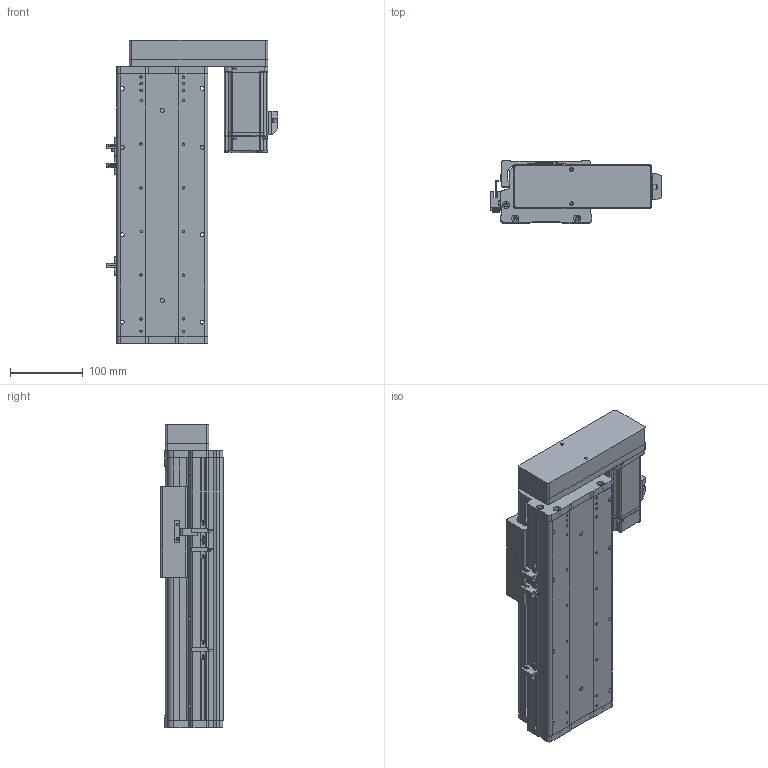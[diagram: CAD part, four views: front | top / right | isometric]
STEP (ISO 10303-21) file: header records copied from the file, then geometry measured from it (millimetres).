
FILE_DESCRIPTION (( 'STEP AP214' ), '1' );
FILE_NAME ('KSD125S-S150-MR-CM.STEP', '2017-10-21T08:49:41', ( '微软用户' ), ( '微软中国' ), 'SwSTEP 2.0', 'SolidWorks 2014', '' );
FILE_SCHEMA (( 'AUTOMOTIVE_DESIGN' ));
Length unit declared in the file: millimetre
Products named in the file (16): MHMD042G1CA_2_03; 125悵誘欶酘衵殏; HTPA30S3M150_A_H6_a萇儂蚚; HTPA30S3M150_A_H6_a佪裝蚚; 125宽马达安装板连板左右折丝杆; KSD125S-150俴最佪裝滅鳥裔; KSD125S-150俴最佪裝菁啣; 拸萇儂釱滅袉菜; 拸萇儂釱滅袉菜-1; 覜茼え68遵圉猾敕; U倰嫖萇假蚾璃; U倰嫖萇EEㄜSX672; ヶ傷啣-125遵耀郪; KSD125-賑雄釱1; 125-帣傷啣1; KSD125S-S150-MR-CM
Assembly tree (19 placements, depth 2):
  KSD125S-S150-MR-CM
    125-帣傷啣1
    KSD125-賑雄釱1
    ヶ傷啣-125遵耀郪
    U倰嫖萇EEㄜSX672  x3
    U倰嫖萇假蚾璃  x3
    覜茼え68遵圉猾敕
    拸萇儂釱滅袉菜-1
    拸萇儂釱滅袉菜
    KSD125S-150俴最佪裝菁啣
    KSD125S-150俴最佪裝滅鳥裔
    125宽马达安装板连板左右折丝杆
    HTPA30S3M150_A_H6_a佪裝蚚
    HTPA30S3M150_A_H6_a萇儂蚚
    125悵誘欶酘衵殏
    MHMD042G1CA_2_03
Bounding box: 234.2 x 86 x 417.5 mm (x, y, z)
Volume: 1707203.6 mm3; surface area: 621812.6 mm2
Topology: 18 solids, 21 shells, 2143 faces, 6207 edges, 4093 vertices
Faces by surface type: cylinder 1326, plane 676, cone 119, bspline 22
Entity records: 75117 total; most frequent: CARTESIAN_POINT 15337, DIRECTION 11745, ORIENTED_EDGE 10922, EDGE_CURVE 5539, AXIS2_PLACEMENT_3D 4527, VERTEX_POINT 3685, VECTOR 2691, LINE 2691
